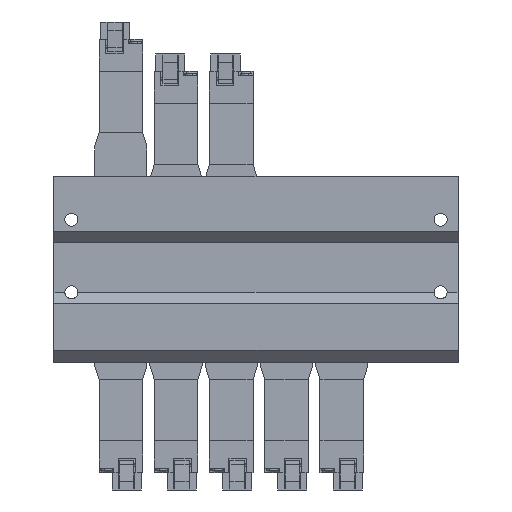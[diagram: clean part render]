
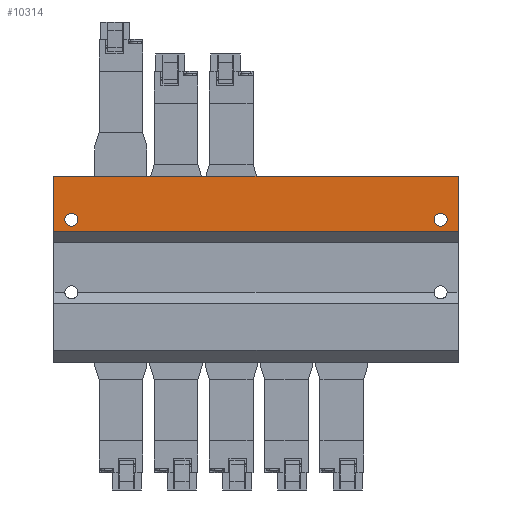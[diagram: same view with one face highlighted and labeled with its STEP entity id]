
A CAD part, front view. The second image highlights one B-rep face of the part: STEP entity #10314.
In plain terms, the highlighted planar face has unit normal (0, -1, 0).
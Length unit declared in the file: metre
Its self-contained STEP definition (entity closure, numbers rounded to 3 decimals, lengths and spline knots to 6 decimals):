
#518 = CARTESIAN_POINT ( 'NONE',  ( 0.0635, -0.0195, 0.02025 ) ) ;
#870 = DIRECTION ( 'NONE',  ( -1., 0., 0. ) ) ;
#984 = EDGE_CURVE ( 'NONE', #5252, #3395, #15842, .T. ) ;
#992 = CARTESIAN_POINT ( 'NONE',  ( 0., -0.0195, 0.033 ) ) ;
#1046 = EDGE_CURVE ( 'NONE', #14798, #18834, #10587, .T. ) ;
#1059 = ORIENTED_EDGE ( 'NONE', *, *, #5575, .T. ) ;
#1161 = VECTOR ( 'NONE', #870, 1. ) ;
#1764 = ORIENTED_EDGE ( 'NONE', *, *, #1046, .T. ) ;
#2047 = AXIS2_PLACEMENT_3D ( 'NONE', #2460, #5420, #15645 ) ;
#2301 = AXIS2_PLACEMENT_3D ( 'NONE', #3941, #14150, #5402 ) ;
#2460 = CARTESIAN_POINT ( 'NONE',  ( -0.0695, -0.0195, 0.033 ) ) ;
#2533 = VERTEX_POINT ( 'NONE', #518 ) ;
#2642 = CARTESIAN_POINT ( 'NONE',  ( -0.0635, -0.0195, 0.018 ) ) ;
#2717 = DIRECTION ( 'NONE',  ( 0., 0., 1. ) ) ;
#2738 = DIRECTION ( 'NONE',  ( 0., 1., 0. ) ) ;
#2875 = CARTESIAN_POINT ( 'NONE',  ( -0.0695, -0.0195, 0.014 ) ) ;
#2882 = FACE_BOUND ( 'NONE', #10405, .T. ) ;
#3058 = VECTOR ( 'NONE', #14509, 1. ) ;
#3099 = CARTESIAN_POINT ( 'NONE',  ( 0.0635, -0.0195, 0.01575 ) ) ;
#3366 = FACE_BOUND ( 'NONE', #8464, .T. ) ;
#3395 = VERTEX_POINT ( 'NONE', #14390 ) ;
#3495 = EDGE_CURVE ( 'NONE', #3395, #8697, #16469, .T. ) ;
#3919 = LINE ( 'NONE', #5804, #5132 ) ;
#3941 = CARTESIAN_POINT ( 'NONE',  ( 0.0635, -0.0195, 0.018 ) ) ;
#4309 = CARTESIAN_POINT ( 'NONE',  ( 0.0695, -0.0195, 0.001 ) ) ;
#4320 = ORIENTED_EDGE ( 'NONE', *, *, #3495, .T. ) ;
#4793 = CARTESIAN_POINT ( 'NONE',  ( 0.0695, -0.0195, 0.014 ) ) ;
#5001 = CIRCLE ( 'NONE', #8316, 0.00225 ) ;
#5026 = ORIENTED_EDGE ( 'NONE', *, *, #16885, .F. ) ;
#5132 = VECTOR ( 'NONE', #16993, 1. ) ;
#5252 = VERTEX_POINT ( 'NONE', #16482 ) ;
#5402 = DIRECTION ( 'NONE',  ( 0., 0., 1. ) ) ;
#5420 = DIRECTION ( 'NONE',  ( 0., -1., 0. ) ) ;
#5528 = VERTEX_POINT ( 'NONE', #4793 ) ;
#5575 = EDGE_CURVE ( 'NONE', #16293, #2533, #15067, .T. ) ;
#5804 = CARTESIAN_POINT ( 'NONE',  ( 0., -0.0195, 0.014 ) ) ;
#8271 = CARTESIAN_POINT ( 'NONE',  ( -0.0635, -0.0195, 0.018 ) ) ;
#8307 = EDGE_CURVE ( 'NONE', #18834, #14798, #5001, .T. ) ;
#8316 = AXIS2_PLACEMENT_3D ( 'NONE', #8271, #9893, #8583 ) ;
#8464 = EDGE_LOOP ( 'NONE', ( #15983, #1059 ) ) ;
#8583 = DIRECTION ( 'NONE',  ( 0., 0., 1. ) ) ;
#8674 = CARTESIAN_POINT ( 'NONE',  ( 0.0635, -0.0195, 0.018 ) ) ;
#8697 = VERTEX_POINT ( 'NONE', #2875 ) ;
#9347 = DIRECTION ( 'NONE',  ( 0., 1., 0. ) ) ;
#9489 = DIRECTION ( 'NONE',  ( 0., 0., 1. ) ) ;
#9893 = DIRECTION ( 'NONE',  ( 0., 1., 0. ) ) ;
#10271 = CARTESIAN_POINT ( 'NONE',  ( -0.0635, -0.0195, 0.02025 ) ) ;
#10314 = ADVANCED_FACE ( 'NONE', ( #3366, #2882, #10706 ), #12644, .T. ) ;
#10405 = EDGE_LOOP ( 'NONE', ( #1764, #15094 ) ) ;
#10587 = CIRCLE ( 'NONE', #11156, 0.00225 ) ;
#10617 = AXIS2_PLACEMENT_3D ( 'NONE', #8674, #9347, #9489 ) ;
#10706 = FACE_OUTER_BOUND ( 'NONE', #14634, .T. ) ;
#10862 = EDGE_CURVE ( 'NONE', #2533, #16293, #15010, .T. ) ;
#11156 = AXIS2_PLACEMENT_3D ( 'NONE', #2642, #2738, #2717 ) ;
#12547 = VECTOR ( 'NONE', #15683, 1. ) ;
#12644 = PLANE ( 'NONE',  #2047 ) ;
#14150 = DIRECTION ( 'NONE',  ( 0., 1., 0. ) ) ;
#14266 = LINE ( 'NONE', #4309, #3058 ) ;
#14390 = CARTESIAN_POINT ( 'NONE',  ( -0.0695, -0.0195, 0.033 ) ) ;
#14509 = DIRECTION ( 'NONE',  ( 0., 0., -1. ) ) ;
#14634 = EDGE_LOOP ( 'NONE', ( #5026, #15058, #4320, #18155 ) ) ;
#14738 = EDGE_CURVE ( 'NONE', #5528, #8697, #3919, .T. ) ;
#14798 = VERTEX_POINT ( 'NONE', #10271 ) ;
#15010 = CIRCLE ( 'NONE', #2301, 0.00225 ) ;
#15058 = ORIENTED_EDGE ( 'NONE', *, *, #984, .T. ) ;
#15067 = CIRCLE ( 'NONE', #10617, 0.00225 ) ;
#15094 = ORIENTED_EDGE ( 'NONE', *, *, #8307, .T. ) ;
#15615 = CARTESIAN_POINT ( 'NONE',  ( -0.0695, -0.0195, 0.0235 ) ) ;
#15642 = CARTESIAN_POINT ( 'NONE',  ( -0.0635, -0.0195, 0.01575 ) ) ;
#15645 = DIRECTION ( 'NONE',  ( 0., 0., -1. ) ) ;
#15683 = DIRECTION ( 'NONE',  ( 0., 0., -1. ) ) ;
#15842 = LINE ( 'NONE', #992, #1161 ) ;
#15983 = ORIENTED_EDGE ( 'NONE', *, *, #10862, .T. ) ;
#16293 = VERTEX_POINT ( 'NONE', #3099 ) ;
#16469 = LINE ( 'NONE', #15615, #12547 ) ;
#16482 = CARTESIAN_POINT ( 'NONE',  ( 0.0695, -0.0195, 0.033 ) ) ;
#16885 = EDGE_CURVE ( 'NONE', #5252, #5528, #14266, .T. ) ;
#16993 = DIRECTION ( 'NONE',  ( -1., 0., 0. ) ) ;
#18155 = ORIENTED_EDGE ( 'NONE', *, *, #14738, .F. ) ;
#18834 = VERTEX_POINT ( 'NONE', #15642 ) ;
